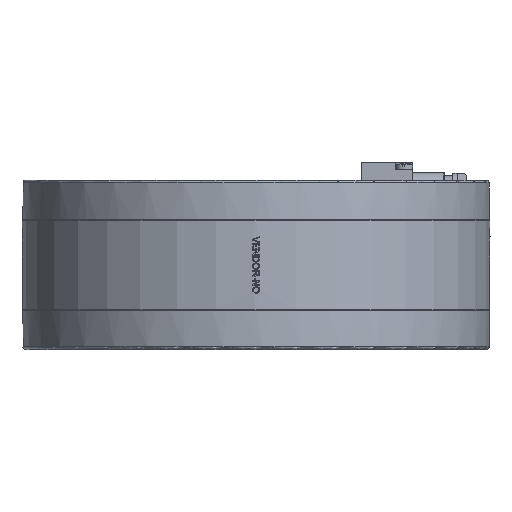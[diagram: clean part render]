
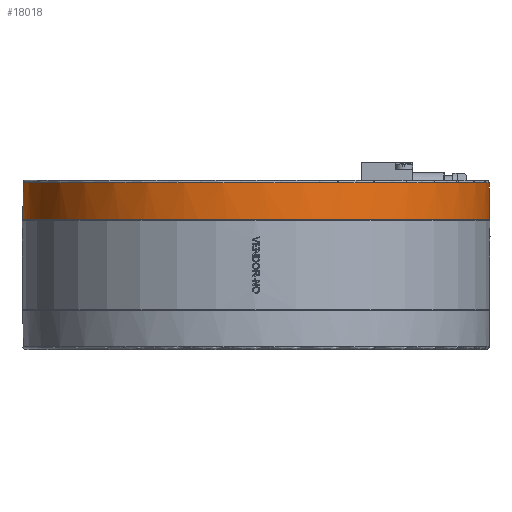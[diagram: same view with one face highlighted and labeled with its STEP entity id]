
A CAD part, front view. The second image highlights one B-rep face of the part: STEP entity #18018.
In plain terms, the highlighted cylindrical face has radius 82.5 mm (diameter 165 mm), a full revolution.
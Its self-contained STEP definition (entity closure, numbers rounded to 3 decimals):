
#6570=ELLIPSE('',#40908,116.673,82.5);
#6571=ELLIPSE('',#40910,116.673,82.5);
#9360=LINE('',#66951,#11541);
#9361=LINE('',#66956,#11542);
#11541=VECTOR('',#48228,1.);
#11542=VECTOR('',#48231,1.);
#16473=CYLINDRICAL_SURFACE('',#40911,82.5);
#18018=ADVANCED_FACE('',(#19293,#19294),#16473,.T.);
#19293=FACE_BOUND('',#21453,.T.);
#19294=FACE_BOUND('',#21454,.T.);
#21453=EDGE_LOOP('',(#28870));
#21454=EDGE_LOOP('',(#28871,#28872,#28873,#28874,#28875,#28876));
#28870=ORIENTED_EDGE('',*,*,#36677,.T.);
#28871=ORIENTED_EDGE('',*,*,#36678,.T.);
#28872=ORIENTED_EDGE('',*,*,#36679,.T.);
#28873=ORIENTED_EDGE('',*,*,#36680,.T.);
#28874=ORIENTED_EDGE('',*,*,#36681,.T.);
#28875=ORIENTED_EDGE('',*,*,#36682,.T.);
#28876=ORIENTED_EDGE('',*,*,#36683,.T.);
#32728=VERTEX_POINT('',#66950);
#32729=VERTEX_POINT('',#66952);
#32730=VERTEX_POINT('',#66953);
#32731=VERTEX_POINT('',#66955);
#32732=VERTEX_POINT('',#66957);
#32733=VERTEX_POINT('',#66959);
#32734=VERTEX_POINT('',#66961);
#36677=EDGE_CURVE('',#32728,#32728,#38327,.T.);
#36678=EDGE_CURVE('',#32729,#32730,#9360,.T.);
#36679=EDGE_CURVE('',#32730,#32731,#38328,.T.);
#36680=EDGE_CURVE('',#32731,#32732,#9361,.T.);
#36681=EDGE_CURVE('',#32732,#32733,#6570,.T.);
#36682=EDGE_CURVE('',#32733,#32734,#38329,.T.);
#36683=EDGE_CURVE('',#32734,#32729,#6571,.T.);
#38327=CIRCLE('',#40906,82.5);
#38328=CIRCLE('',#40907,82.5);
#38329=CIRCLE('',#40909,82.5);
#40906=AXIS2_PLACEMENT_3D('',#66949,#48226,#48227);
#40907=AXIS2_PLACEMENT_3D('',#66954,#48229,#48230);
#40908=AXIS2_PLACEMENT_3D('',#66958,#48232,#48233);
#40909=AXIS2_PLACEMENT_3D('',#66960,#48234,#48235);
#40910=AXIS2_PLACEMENT_3D('',#66962,#48236,#48237);
#40911=AXIS2_PLACEMENT_3D('',#66963,#48238,#48239);
#48226=DIRECTION('',(0.,0.,-1.));
#48227=DIRECTION('',(1.,0.,0.));
#48228=DIRECTION('',(0.,0.,1.));
#48229=DIRECTION('',(0.,0.,1.));
#48230=DIRECTION('',(-1.,0.,0.));
#48231=DIRECTION('',(0.,0.,-1.));
#48232=DIRECTION('',(0.,0.707,0.707));
#48233=DIRECTION('',(0.,0.707,-0.707));
#48234=DIRECTION('',(0.,0.,1.));
#48235=DIRECTION('',(1.,0.,0.));
#48236=DIRECTION('',(0.,0.707,0.707));
#48237=DIRECTION('',(0.,0.707,-0.707));
#48238=DIRECTION('',(0.,0.,-1.));
#48239=DIRECTION('',(-1.,0.,0.));
#66949=CARTESIAN_POINT('',(0.,0.,29.));
#66950=CARTESIAN_POINT('',(82.5,0.,29.));
#66951=CARTESIAN_POINT('',(20.156,80.,30.));
#66952=CARTESIAN_POINT('',(20.156,80.,15.85));
#66953=CARTESIAN_POINT('',(20.156,80.,16.55));
#66954=CARTESIAN_POINT('',(0.,0.,16.55));
#66955=CARTESIAN_POINT('',(-20.156,80.,16.55));
#66956=CARTESIAN_POINT('',(-20.156,80.,30.));
#66957=CARTESIAN_POINT('',(-20.156,80.,15.85));
#66958=CARTESIAN_POINT('',(0.,0.,95.85));
#66959=CARTESIAN_POINT('',(-21.123,79.75,16.1));
#66960=CARTESIAN_POINT('',(0.,0.,16.1));
#66961=CARTESIAN_POINT('',(21.123,79.75,16.1));
#66962=CARTESIAN_POINT('',(0.,0.,95.85));
#66963=CARTESIAN_POINT('',(0.,0.,30.));
